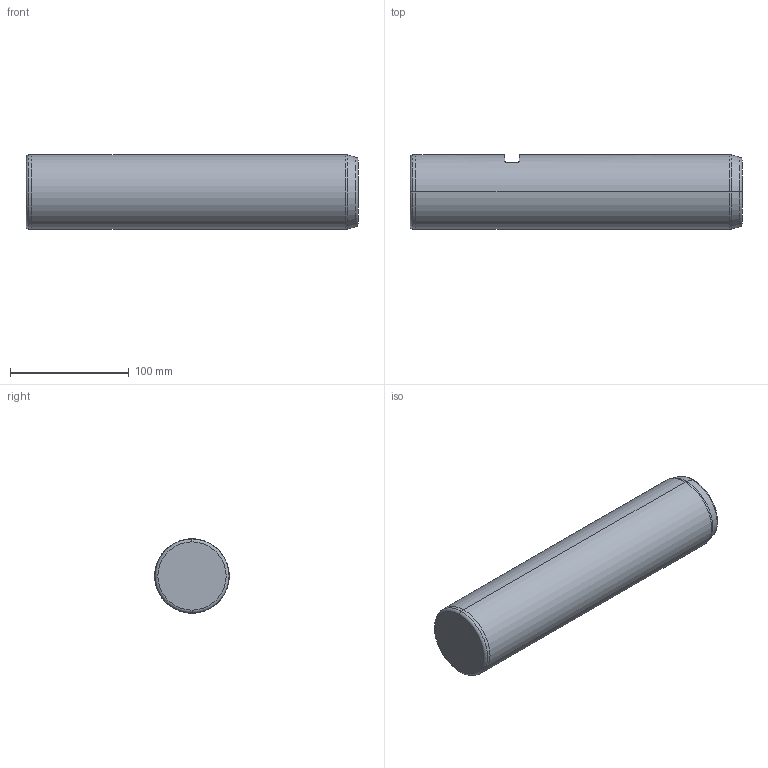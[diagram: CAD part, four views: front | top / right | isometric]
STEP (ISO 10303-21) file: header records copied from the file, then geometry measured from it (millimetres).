
FILE_DESCRIPTION (( 'STEP AP214' ), '1' );
FILE_NAME ('SP202-08-63-280.STEP', '2020-11-03T14:23:28', ( '' ), ( '' ), 'SwSTEP 2.0', 'SolidWorks 2018', '' );
FILE_SCHEMA (( 'AUTOMOTIVE_DESIGN' ));
Length unit declared in the file: millimetre
Products named in the file (1): SP202-08-63-280
Bounding box: 280 x 63 x 63 mm (x, y, z)
Volume: 863408.4 mm3; surface area: 62293.1 mm2
Topology: 1 solids, 1 shells, 26 faces, 54 edges, 31 vertices
Faces by surface type: cylinder 8, cone 6, torus 6, plane 6
Entity records: 744 total; most frequent: CARTESIAN_POINT 150, DIRECTION 132, ORIENTED_EDGE 104, AXIS2_PLACEMENT_3D 57, EDGE_CURVE 52, VERTEX_POINT 31, CIRCLE 30, EDGE_LOOP 29
